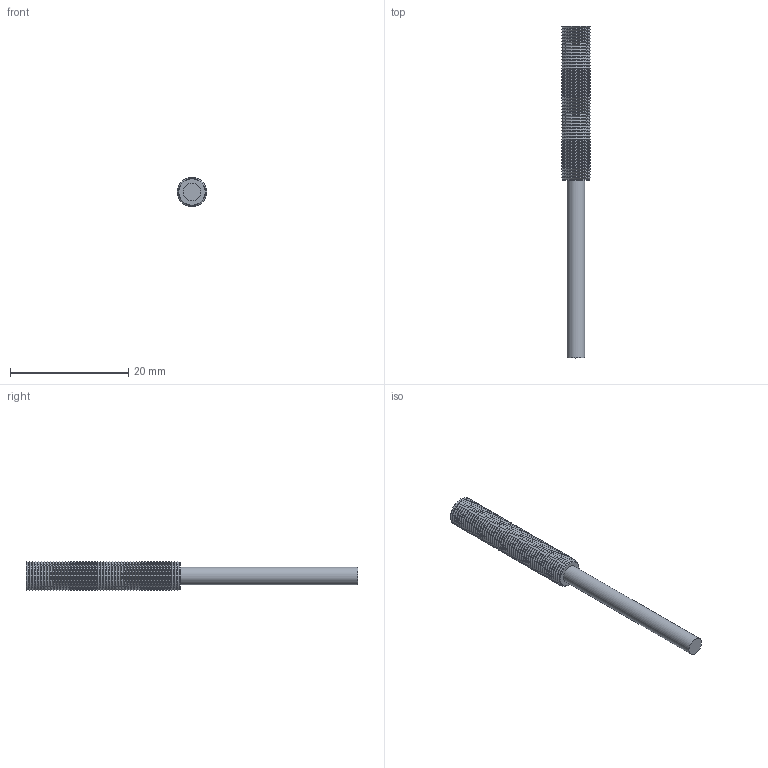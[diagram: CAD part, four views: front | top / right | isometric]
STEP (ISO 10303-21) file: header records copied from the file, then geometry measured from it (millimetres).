
FILE_DESCRIPTION(('FreeCAD Model'),'2;1');
FILE_NAME('Open CASCADE Shape Model','2024-10-02T07:32:55',( 'Thomas Reinhold'),('Eickmann Elektronik GmbH&.Co'), 'Open CASCADE STEP processor 7.6','FreeCAD','Unknown');
FILE_SCHEMA(('AUTOMOTIVE_DESIGN { 1 0 10303 214 1 1 1 1 }'));
Length unit declared in the file: millimetre
Products named in the file (4): Unnamed; 3; 6; Zylinder
Assembly tree (3 placements, depth 2):
  Unnamed
    3
    6
    Zylinder
Bounding box: 5 x 56.1 x 5 mm (x, y, z)
Volume: 674.5 mm3; surface area: 991.7 mm2
Topology: 3 solids, 3 shells, 427 faces, 847 edges, 426 vertices
Faces by surface type: cylinder 211, cone 210, plane 6
Full cylindrical faces by diameter (mm): 3 x1
Entity records: 10733 total; most frequent: DIRECTION 2135, CARTESIAN_POINT 1704, ORIENTED_EDGE 1694, AXIS2_PLACEMENT_3D 857, EDGE_CURVE 847, ADVANCED_FACE 427, FACE_BOUND 427, EDGE_LOOP 427
